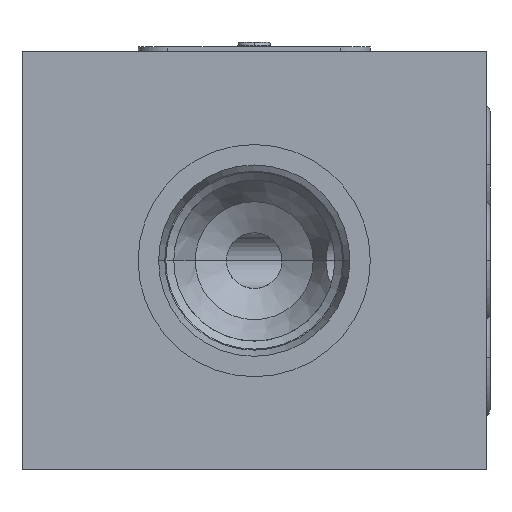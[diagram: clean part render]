
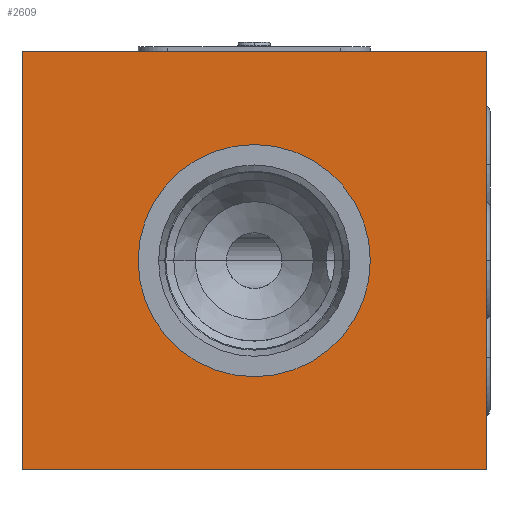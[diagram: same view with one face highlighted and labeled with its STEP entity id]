
A CAD part, left-side view. The second image highlights one B-rep face of the part: STEP entity #2609.
In plain terms, the highlighted planar face has unit normal (-1, 0, 0).
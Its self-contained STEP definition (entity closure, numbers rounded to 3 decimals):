
#52=DIRECTION('',(0.,0.,-1.));
#53=VECTOR('',#52,45.);
#54=CARTESIAN_POINT('',(0.,0.,0.));
#55=LINE('',#54,#53);
#59=DIRECTION('',(0.,1.,0.));
#60=VECTOR('',#59,50.);
#61=CARTESIAN_POINT('',(0.,0.,-45.));
#62=LINE('',#61,#60);
#66=DIRECTION('',(0.,0.,1.));
#67=VECTOR('',#66,45.);
#68=CARTESIAN_POINT('',(0.,50.,-45.));
#69=LINE('',#68,#67);
#73=DIRECTION('',(0.,-1.,0.));
#74=VECTOR('',#73,50.);
#75=CARTESIAN_POINT('',(0.,50.,0.));
#76=LINE('',#75,#74);
#80=CARTESIAN_POINT('',(0.,25.,-22.5));
#81=DIRECTION('',(1.,0.,0.));
#82=DIRECTION('',(0.,-1.,0.));
#83=AXIS2_PLACEMENT_3D('',#80,#81,#82);
#88=CARTESIAN_POINT('',(0.,25.,-22.5));
#89=DIRECTION('',(1.,0.,0.));
#90=DIRECTION('',(0.,1.,0.));
#91=AXIS2_PLACEMENT_3D('',#88,#89,#90);
#2327=CARTESIAN_POINT('',(0.,0.,0.));
#2328=CARTESIAN_POINT('',(0.,0.,-45.));
#2329=VERTEX_POINT('',#2327);
#2330=VERTEX_POINT('',#2328);
#2331=CARTESIAN_POINT('',(0.,50.,-45.));
#2332=VERTEX_POINT('',#2331);
#2333=CARTESIAN_POINT('',(0.,50.,0.));
#2334=VERTEX_POINT('',#2333);
#2445=CARTESIAN_POINT('',(0.,12.5,-22.5));
#2446=VERTEX_POINT('',#2445);
#2447=CARTESIAN_POINT('',(0.,37.5,-22.5));
#2448=VERTEX_POINT('',#2447);
#2588=CARTESIAN_POINT('',(0.,0.,0.));
#2589=DIRECTION('',(1.,0.,0.));
#2590=DIRECTION('',(0.,0.,-1.));
#2591=AXIS2_PLACEMENT_3D('',#2588,#2589,#2590);
#2592=PLANE('',#2591);
#2594=ORIENTED_EDGE('',*,*,#2593,.T.);
#2596=ORIENTED_EDGE('',*,*,#2595,.T.);
#2598=ORIENTED_EDGE('',*,*,#2597,.T.);
#2600=ORIENTED_EDGE('',*,*,#2599,.T.);
#2601=EDGE_LOOP('',(#2594,#2596,#2598,#2600));
#2602=FACE_OUTER_BOUND('',#2601,.F.);
#2604=ORIENTED_EDGE('',*,*,#2603,.F.);
#2606=ORIENTED_EDGE('',*,*,#2605,.F.);
#2607=EDGE_LOOP('',(#2604,#2606));
#2608=FACE_BOUND('',#2607,.F.);
#84=CIRCLE('',#83,12.5);
#92=CIRCLE('',#91,12.5);
#2593=EDGE_CURVE('',#2329,#2330,#55,.T.);
#2595=EDGE_CURVE('',#2330,#2332,#62,.T.);
#2597=EDGE_CURVE('',#2332,#2334,#69,.T.);
#2599=EDGE_CURVE('',#2334,#2329,#76,.T.);
#2603=EDGE_CURVE('',#2446,#2448,#84,.T.);
#2605=EDGE_CURVE('',#2448,#2446,#92,.T.);
#2609=ADVANCED_FACE('',(#2602,#2608),#2592,.F.);
